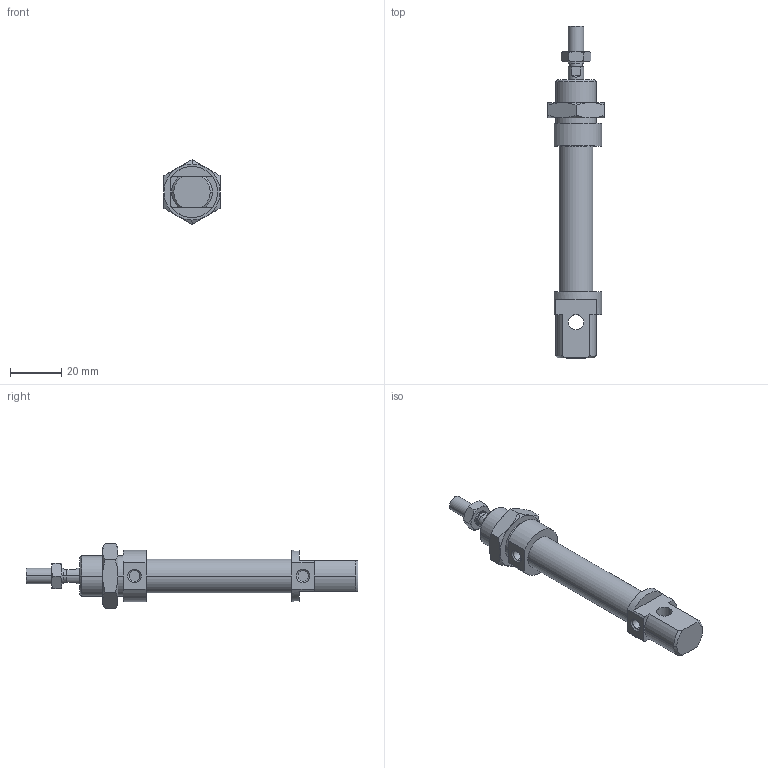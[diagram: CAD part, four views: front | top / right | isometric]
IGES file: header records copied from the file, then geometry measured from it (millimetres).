
Global section: file name: No Iges File Name specified; native system: AutoDesk Inventor R6.0; preprocessor: AutoDesk Inventor Iges Exporter R6.0; author: No Author specified; organization: No Organization specified; date: 20030407.191006; units: millimetre
Bounding box: 22 x 130 x 25.4 mm (x, y, z)
Volume: 20852.5 mm3; surface area: 10184.5 mm2
Topology: 4 solids, 4 shells, 121 faces, 268 edges, 162 vertices
Faces by surface type: plane 39, cone 38, bspline 20, cylinder 18, revolution 6
